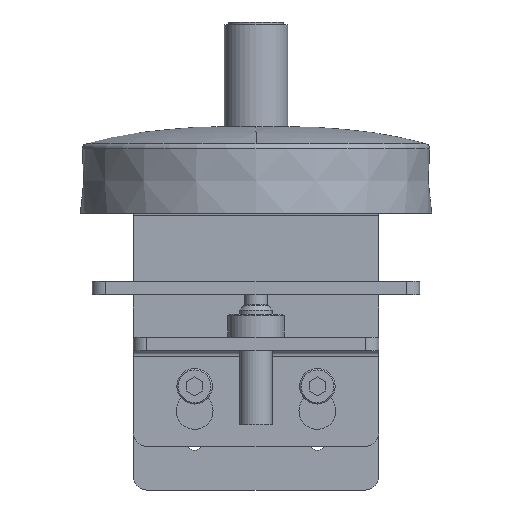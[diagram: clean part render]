
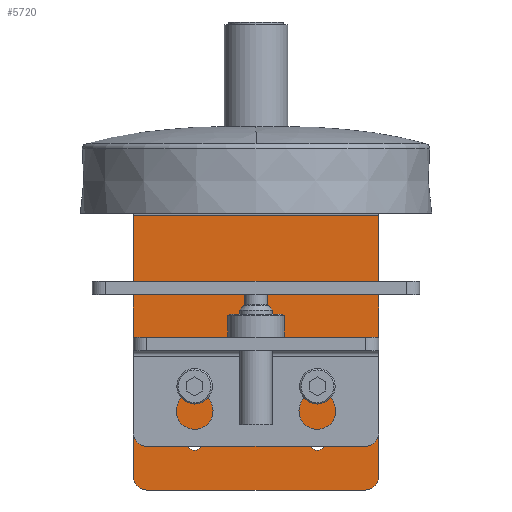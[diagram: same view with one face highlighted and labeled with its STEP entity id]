
A CAD part, front view. The second image highlights one B-rep face of the part: STEP entity #5720.
In plain terms, the highlighted planar face has unit normal (0, -1, 0).
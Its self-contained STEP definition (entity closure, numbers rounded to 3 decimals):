
#172=FACE_BOUND('',#722,.T.);
#173=FACE_BOUND('',#723,.T.);
#174=FACE_BOUND('',#724,.T.);
#175=FACE_BOUND('',#725,.T.);
#382=FACE_OUTER_BOUND('',#721,.T.);
#721=EDGE_LOOP('',(#4529,#4530,#4531,#4532,#4533,#4534));
#722=EDGE_LOOP('',(#4535));
#723=EDGE_LOOP('',(#4536));
#724=EDGE_LOOP('',(#4537));
#725=EDGE_LOOP('',(#4538));
#1008=CIRCLE('',#6216,5.);
#1009=CIRCLE('',#6217,5.);
#1010=CIRCLE('',#6218,3.4);
#1011=CIRCLE('',#6219,3.4);
#1012=CIRCLE('',#6220,3.4);
#1013=CIRCLE('',#6221,3.4);
#1488=LINE('',#9120,#2002);
#1489=LINE('',#9123,#2003);
#1494=LINE('',#9132,#2008);
#1496=LINE('',#9151,#2010);
#2002=VECTOR('',#7500,90.);
#2003=VECTOR('',#7503,95.5);
#2008=VECTOR('',#7510,95.5);
#2010=VECTOR('',#7530,80.);
#2485=VERTEX_POINT('',#9106);
#2487=VERTEX_POINT('',#9112);
#2489=VERTEX_POINT('',#9122);
#2492=VERTEX_POINT('',#9130);
#2499=VERTEX_POINT('',#9148);
#2500=VERTEX_POINT('',#9150);
#2501=VERTEX_POINT('',#9153);
#2502=VERTEX_POINT('',#9155);
#2503=VERTEX_POINT('',#9157);
#2504=VERTEX_POINT('',#9159);
#3188=EDGE_CURVE('',#2485,#2487,#1488,.T.);
#3189=EDGE_CURVE('',#2487,#2489,#1489,.F.);
#3194=EDGE_CURVE('',#2492,#2485,#1494,.F.);
#3202=EDGE_CURVE('',#2492,#2499,#1008,.T.);
#3203=EDGE_CURVE('',#2500,#2499,#1496,.F.);
#3204=EDGE_CURVE('',#2500,#2489,#1009,.T.);
#3205=EDGE_CURVE('',#2501,#2501,#1010,.T.);
#3206=EDGE_CURVE('',#2502,#2502,#1011,.T.);
#3207=EDGE_CURVE('',#2503,#2503,#1012,.T.);
#3208=EDGE_CURVE('',#2504,#2504,#1013,.T.);
#4529=ORIENTED_EDGE('',*,*,#3194,.F.);
#4530=ORIENTED_EDGE('',*,*,#3202,.T.);
#4531=ORIENTED_EDGE('',*,*,#3203,.F.);
#4532=ORIENTED_EDGE('',*,*,#3204,.T.);
#4533=ORIENTED_EDGE('',*,*,#3189,.F.);
#4534=ORIENTED_EDGE('',*,*,#3188,.F.);
#4535=ORIENTED_EDGE('',*,*,#3205,.F.);
#4536=ORIENTED_EDGE('',*,*,#3206,.F.);
#4537=ORIENTED_EDGE('',*,*,#3207,.F.);
#4538=ORIENTED_EDGE('',*,*,#3208,.F.);
#5159=PLANE('',#6215);
#5720=ADVANCED_FACE('',(#382,#172,#173,#174,#175),#5159,.T.);
#6215=AXIS2_PLACEMENT_3D('',#9147,#7526,#7527);
#6216=AXIS2_PLACEMENT_3D('',#9149,#7528,#7529);
#6217=AXIS2_PLACEMENT_3D('',#9152,#7531,#7532);
#6218=AXIS2_PLACEMENT_3D('',#9154,#7533,#7534);
#6219=AXIS2_PLACEMENT_3D('',#9156,#7535,#7536);
#6220=AXIS2_PLACEMENT_3D('',#9158,#7537,#7538);
#6221=AXIS2_PLACEMENT_3D('',#9160,#7539,#7540);
#7500=DIRECTION('',(1.,0.,0.));
#7503=DIRECTION('',(0.,0.,1.));
#7510=DIRECTION('',(0.,0.,-1.));
#7526=DIRECTION('center_axis',(0.,-1.,0.));
#7527=DIRECTION('ref_axis',(1.,0.,0.));
#7528=DIRECTION('center_axis',(0.,-1.,0.));
#7529=DIRECTION('ref_axis',(0.,0.,
1.));
#7530=DIRECTION('',(1.,0.,0.));
#7531=DIRECTION('center_axis',(0.,-1.,0.));
#7532=DIRECTION('ref_axis',(0.,0.,
1.));
#7533=DIRECTION('center_axis',(0.,-1.,0.));
#7534=DIRECTION('ref_axis',(0.,0.,
1.));
#7535=DIRECTION('center_axis',(0.,-1.,0.));
#7536=DIRECTION('ref_axis',(0.,0.,
1.));
#7537=DIRECTION('center_axis',(0.,-1.,0.));
#7538=DIRECTION('ref_axis',(0.,0.,
1.));
#7539=DIRECTION('center_axis',(0.,-1.,0.));
#7540=DIRECTION('ref_axis',(0.,0.,
1.));
#9106=CARTESIAN_POINT('',(-45.,68.,58.));
#9112=CARTESIAN_POINT('',(45.,68.,58.));
#9120=CARTESIAN_POINT('',(-45.,68.,58.));
#9122=CARTESIAN_POINT('',(45.,68.,-37.5));
#9123=CARTESIAN_POINT('',(45.,68.,-37.5));
#9130=CARTESIAN_POINT('',(-45.,68.,-37.5));
#9132=CARTESIAN_POINT('',(-45.,68.,58.));
#9147=CARTESIAN_POINT('Origin',(-45.,68.,61.));
#9148=CARTESIAN_POINT('',(-40.,68.,-42.5));
#9149=CARTESIAN_POINT('Origin',(-40.,68.,-37.5));
#9150=CARTESIAN_POINT('',(40.,68.,-42.5));
#9151=CARTESIAN_POINT('',(-40.,68.,-42.5));
#9152=CARTESIAN_POINT('Origin',(40.,68.,-37.5));
#9153=CARTESIAN_POINT('',(-22.5,68.,-7.9));
#9154=CARTESIAN_POINT('Origin',(-22.5,68.,-4.5));
#9155=CARTESIAN_POINT('',(22.5,68.,-7.9));
#9156=CARTESIAN_POINT('Origin',(22.5,68.,-4.5));
#9157=CARTESIAN_POINT('',(22.5,68.,-27.9));
#9158=CARTESIAN_POINT('Origin',(22.5,68.,-24.5));
#9159=CARTESIAN_POINT('',(-22.5,68.,-27.9));
#9160=CARTESIAN_POINT('Origin',(-22.5,68.,-24.5));
